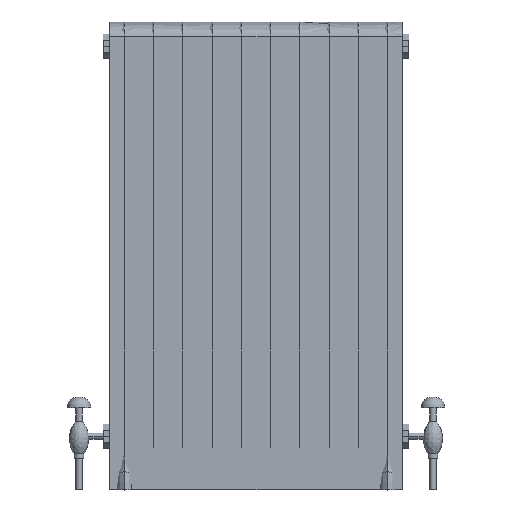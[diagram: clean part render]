
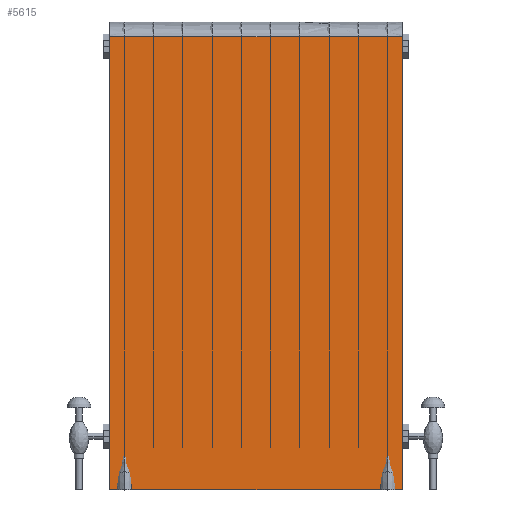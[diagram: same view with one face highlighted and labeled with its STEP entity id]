
A CAD part, front view. The second image highlights one B-rep face of the part: STEP entity #5615.
In plain terms, the highlighted planar face has unit normal (0, -1, 0).
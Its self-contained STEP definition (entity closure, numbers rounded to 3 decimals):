
#704=FACE_OUTER_BOUND('',#1053,.T.);
#1053=EDGE_LOOP('',(#3738,#3739,#3740,#3741));
#1479=LINE('',#8108,#1942);
#1484=LINE('',#8119,#1947);
#1486=LINE('',#8162,#1949);
#1487=LINE('',#8164,#1950);
#1942=VECTOR('',#6634,304.8);
#1947=VECTOR('',#6641,304.8);
#1949=VECTOR('',#6645,304.8);
#1950=VECTOR('',#6648,304.8);
#2374=VERTEX_POINT('',#8105);
#2375=VERTEX_POINT('',#8107);
#2379=VERTEX_POINT('',#8116);
#2380=VERTEX_POINT('',#8118);
#2874=EDGE_CURVE('',#2374,#2375,#1479,.T.);
#2879=EDGE_CURVE('',#2379,#2380,#1484,.T.);
#2882=EDGE_CURVE('',#2380,#2374,#1486,.T.);
#2883=EDGE_CURVE('',#2379,#2375,#1487,.T.);
#3738=ORIENTED_EDGE('',*,*,#2874,.F.);
#3739=ORIENTED_EDGE('',*,*,#2882,.F.);
#3740=ORIENTED_EDGE('',*,*,#2879,.F.);
#3741=ORIENTED_EDGE('',*,*,#2883,.T.);
#5090=PLANE('',#5996);
#5615=ADVANCED_FACE('',(#704),#5090,.T.);
#5996=AXIS2_PLACEMENT_3D('',#8163,#6646,#6647);
#6634=DIRECTION('',(0.,0.,-1.));
#6641=DIRECTION('',(0.,0.,1.));
#6645=DIRECTION('',(1.,0.,0.));
#6646=DIRECTION('center_axis',(0.,-1.,0.));
#6647=DIRECTION('ref_axis',(-1.,0.,0.));
#6648=DIRECTION('',(1.,0.,0.));
#8105=CARTESIAN_POINT('',(300.,-176.,930.));
#8107=CARTESIAN_POINT('',(300.,-176.,0.));
#8108=CARTESIAN_POINT('',(300.,-176.,930.));
#8116=CARTESIAN_POINT('',(-300.,-176.,0.));
#8118=CARTESIAN_POINT('',(-300.,-176.,930.));
#8119=CARTESIAN_POINT('',(-300.,-176.,0.));
#8162=CARTESIAN_POINT('',(300.,-176.,930.));
#8163=CARTESIAN_POINT('Origin',(300.,-176.,930.));
#8164=CARTESIAN_POINT('',(300.,-176.,0.));
